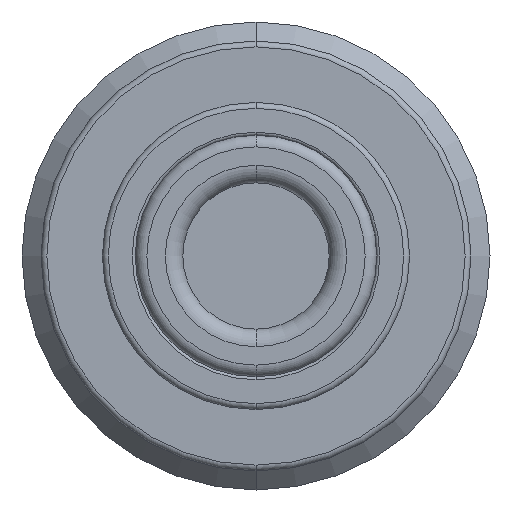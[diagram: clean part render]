
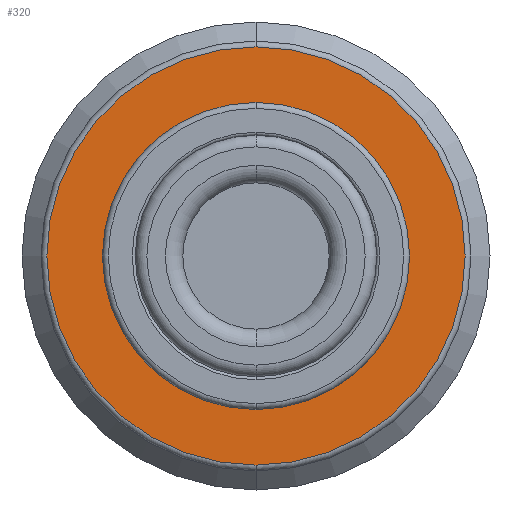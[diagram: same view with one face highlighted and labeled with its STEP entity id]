
A CAD part, front view. The second image highlights one B-rep face of the part: STEP entity #320.
In plain terms, the highlighted planar face has unit normal (0, -1, 0).
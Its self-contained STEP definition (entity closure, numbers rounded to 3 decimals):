
#121=PLANE('',#1905);
#155=FACE_BOUND('',#554,.T.);
#156=FACE_BOUND('',#555,.T.);
#320=ADVANCED_FACE('',(#155,#156),#121,.F.);
#554=EDGE_LOOP('',(#1049,#1050));
#555=EDGE_LOOP('',(#1051,#1052));
#1049=ORIENTED_EDGE('',*,*,#1567,.T.);
#1050=ORIENTED_EDGE('',*,*,#1443,.T.);
#1051=ORIENTED_EDGE('',*,*,#1492,.T.);
#1052=ORIENTED_EDGE('',*,*,#1566,.T.);
#1274=VERTEX_POINT('',#2773);
#1275=VERTEX_POINT('',#2774);
#1310=VERTEX_POINT('',#2871);
#1311=VERTEX_POINT('',#2873);
#1443=EDGE_CURVE('',#1274,#1275,#1651,.T.);
#1492=EDGE_CURVE('',#1311,#1310,#1679,.T.);
#1566=EDGE_CURVE('',#1310,#1311,#1710,.T.);
#1567=EDGE_CURVE('',#1275,#1274,#1711,.T.);
#1651=CIRCLE('',#1811,7.15);
#1679=CIRCLE('',#1853,5.25);
#1710=CIRCLE('',#1902,5.25);
#1711=CIRCLE('',#1904,7.15);
#1811=AXIS2_PLACEMENT_3D('',#2772,#2147,#2148);
#1853=AXIS2_PLACEMENT_3D('',#2872,#2252,#2253);
#1902=AXIS2_PLACEMENT_3D('',#3245,#2369,#2370);
#1904=AXIS2_PLACEMENT_3D('',#3247,#2373,#2374);
#1905=AXIS2_PLACEMENT_3D('',#3248,#2375,#2376);
#2147=DIRECTION('',(0.,-1.,0.));
#2148=DIRECTION('',(0.,0.,1.));
#2252=DIRECTION('',(0.,1.,0.));
#2253=DIRECTION('',(0.,0.,1.));
#2369=DIRECTION('',(0.,1.,0.));
#2370=DIRECTION('',(0.,0.,1.));
#2373=DIRECTION('',(0.,-1.,0.));
#2374=DIRECTION('',(0.,0.,1.));
#2375=DIRECTION('',(0.,1.,0.));
#2376=DIRECTION('',(0.,0.,1.));
#2772=CARTESIAN_POINT('',(0.,0.,0.));
#2773=CARTESIAN_POINT('',(0.,0.,-7.15));
#2774=CARTESIAN_POINT('',(0.,0.,7.15));
#2871=CARTESIAN_POINT('',(0.,0.,-5.25));
#2872=CARTESIAN_POINT('',(0.,0.,0.));
#2873=CARTESIAN_POINT('',(0.,0.,5.25));
#3245=CARTESIAN_POINT('',(0.,0.,0.));
#3247=CARTESIAN_POINT('',(0.,0.,0.));
#3248=CARTESIAN_POINT('',(0.,0.,0.));
